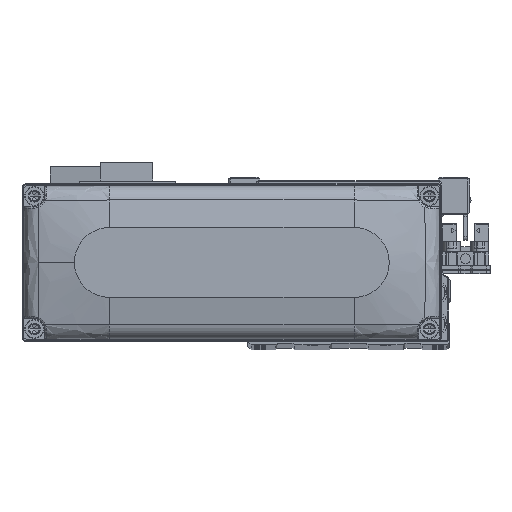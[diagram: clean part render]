
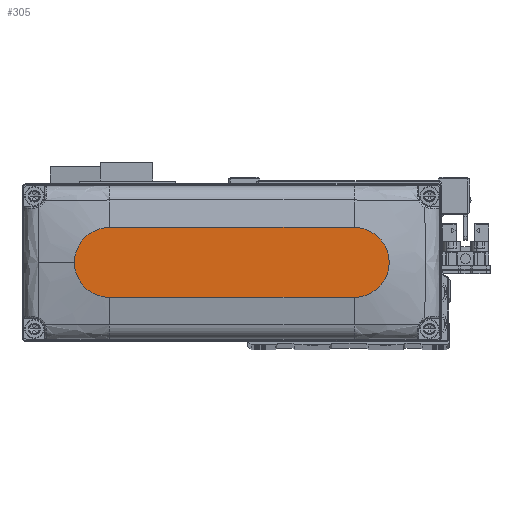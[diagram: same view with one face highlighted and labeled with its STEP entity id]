
A CAD part, top view. The second image highlights one B-rep face of the part: STEP entity #305.
In plain terms, the highlighted planar face has unit normal (0, 0, 1).
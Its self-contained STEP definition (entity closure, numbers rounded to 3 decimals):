
#305 = ADVANCED_FACE ( 'NONE', ( #36854 ), #8974, .T. ) ;
#450 = CIRCLE ( 'NONE', #23276, 10. ) ;
#764 = CIRCLE ( 'NONE', #23589, 10. ) ;
#1321 = DIRECTION ( 'NONE',  ( -1., 0., 0. ) ) ;
#2241 = CARTESIAN_POINT ( 'NONE',  ( 35., -10., 28. ) ) ;
#3440 = VERTEX_POINT ( 'NONE', #26096 ) ;
#4230 = ORIENTED_EDGE ( 'NONE', *, *, #4832, .T. ) ;
#4832 = EDGE_CURVE ( 'NONE', #13905, #37544, #28240, .T. ) ;
#5845 = CARTESIAN_POINT ( 'NONE',  ( 35., 0., 28. ) ) ;
#5908 = DIRECTION ( 'NONE',  ( 1., 0., 0. ) ) ;
#5984 = EDGE_LOOP ( 'NONE', ( #29207, #23257, #6189, #4230, #38401 ) ) ;
#6189 = ORIENTED_EDGE ( 'NONE', *, *, #19790, .T. ) ;
#8974 = PLANE ( 'NONE',  #12355 ) ;
#9150 = CARTESIAN_POINT ( 'NONE',  ( -35., 10., 28. ) ) ;
#10258 = CARTESIAN_POINT ( 'NONE',  ( 35., 0., 28. ) ) ;
#10675 = AXIS2_PLACEMENT_3D ( 'NONE', #10258, #22718, #35096 ) ;
#11172 = EDGE_CURVE ( 'NONE', #21103, #33781, #764, .T. ) ;
#11287 = DIRECTION ( 'NONE',  ( 0., 0., 1. ) ) ;
#11990 = DIRECTION ( 'NONE',  ( 1., 0., 0. ) ) ;
#12355 = AXIS2_PLACEMENT_3D ( 'NONE', #21437, #33810, #5908 ) ;
#12554 = VECTOR ( 'NONE', #1321, 1000. ) ;
#13905 = VERTEX_POINT ( 'NONE', #2241 ) ;
#16828 = LINE ( 'NONE', #29254, #12554 ) ;
#17422 = EDGE_CURVE ( 'NONE', #3440, #21103, #16828, .T. ) ;
#18285 = DIRECTION ( 'NONE',  ( 0., 0., 1. ) ) ;
#19790 = EDGE_CURVE ( 'NONE', #33781, #13905, #27484, .T. ) ;
#21103 = VERTEX_POINT ( 'NONE', #9150 ) ;
#21437 = CARTESIAN_POINT ( 'NONE',  ( 0., 0., 28. ) ) ;
#22718 = DIRECTION ( 'NONE',  ( 0., 0., 1. ) ) ;
#23167 = CARTESIAN_POINT ( 'NONE',  ( 45., 0., 28. ) ) ;
#23257 = ORIENTED_EDGE ( 'NONE', *, *, #11172, .T. ) ;
#23276 = AXIS2_PLACEMENT_3D ( 'NONE', #5845, #18285, #30695 ) ;
#23379 = CARTESIAN_POINT ( 'NONE',  ( -35., -10., 28. ) ) ;
#23589 = AXIS2_PLACEMENT_3D ( 'NONE', #39167, #11287, #23736 ) ;
#23736 = DIRECTION ( 'NONE',  ( 1., 0., 0. ) ) ;
#25624 = VECTOR ( 'NONE', #11990, 1000. ) ;
#26096 = CARTESIAN_POINT ( 'NONE',  ( 35., 10., 28. ) ) ;
#26900 = EDGE_CURVE ( 'NONE', #37544, #3440, #450, .T. ) ;
#27484 = LINE ( 'NONE', #39868, #25624 ) ;
#28240 = CIRCLE ( 'NONE', #10675, 10. ) ;
#29207 = ORIENTED_EDGE ( 'NONE', *, *, #17422, .T. ) ;
#29254 = CARTESIAN_POINT ( 'NONE',  ( -35., 10., 28. ) ) ;
#30695 = DIRECTION ( 'NONE',  ( 1., 0., 0. ) ) ;
#33781 = VERTEX_POINT ( 'NONE', #23379 ) ;
#33810 = DIRECTION ( 'NONE',  ( 0., 0., 1. ) ) ;
#35096 = DIRECTION ( 'NONE',  ( 1., 0., 0. ) ) ;
#36854 = FACE_OUTER_BOUND ( 'NONE', #5984, .T. ) ;
#37544 = VERTEX_POINT ( 'NONE', #23167 ) ;
#38401 = ORIENTED_EDGE ( 'NONE', *, *, #26900, .T. ) ;
#39167 = CARTESIAN_POINT ( 'NONE',  ( -35., 0., 28. ) ) ;
#39868 = CARTESIAN_POINT ( 'NONE',  ( -35., -10., 28. ) ) ;
